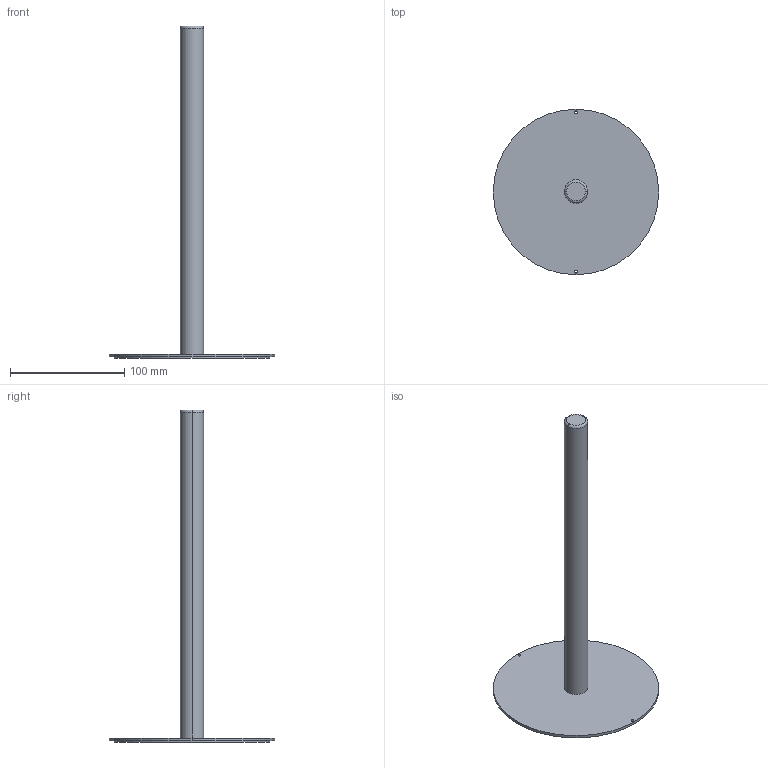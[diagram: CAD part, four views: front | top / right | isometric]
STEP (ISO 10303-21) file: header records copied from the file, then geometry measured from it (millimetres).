
FILE_DESCRIPTION (( 'STEP AP203' ), '1' );
FILE_NAME ('Stojak na rêczniki papierowe ARPE.STEP', '2022-10-31T13:05:47', ( '' ), ( '' ), 'SwSTEP 2.0', 'SolidWorks 2021', '' );
FILE_SCHEMA (( 'CONFIG_CONTROL_DESIGN' ));
Length unit declared in the file: millimetre
Products named in the file (1): Stojak na rêczniki papierowe ARPE
Bounding box: 145 x 145 x 291 mm (x, y, z)
Volume: 149701.8 mm3; surface area: 52980.4 mm2
Topology: 1 solids, 1 shells, 16 faces, 34 edges, 22 vertices
Faces by surface type: cylinder 10, plane 4, torus 2
Entity records: 531 total; most frequent: DIRECTION 92, CARTESIAN_POINT 73, ORIENTED_EDGE 68, AXIS2_PLACEMENT_3D 41, EDGE_CURVE 34, CIRCLE 24, EDGE_LOOP 22, VERTEX_POINT 22
